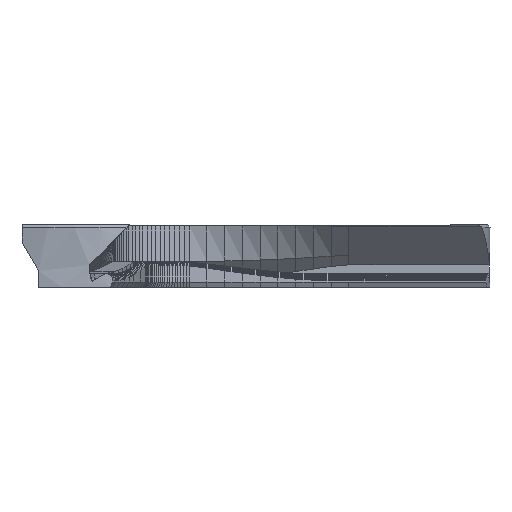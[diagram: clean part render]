
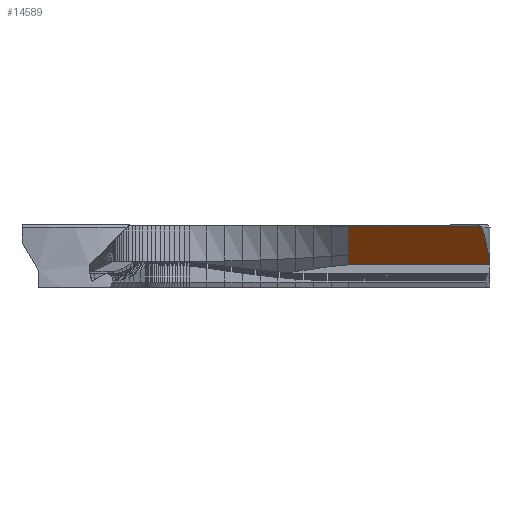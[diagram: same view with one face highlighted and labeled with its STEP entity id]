
A CAD part, left-side view. The second image highlights one B-rep face of the part: STEP entity #14589.
In plain terms, the highlighted planar face has unit normal (-0.707, 0, -0.707).
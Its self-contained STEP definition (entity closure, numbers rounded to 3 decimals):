
#3054 = PLANE('',#3055);
#3055 = AXIS2_PLACEMENT_3D('',#3056,#3057,#3058);
#3056 = CARTESIAN_POINT('',(172.995,110.7,13.005));
#3057 = DIRECTION('',(-0.777,0.,-0.63));
#3058 = DIRECTION('',(-0.63,0.,0.777));
#6466 = CYLINDRICAL_SURFACE('',#6467,34.85);
#6467 = AXIS2_PLACEMENT_3D('',#6468,#6469,#6470);
#6468 = CARTESIAN_POINT('',(183.85,115.55,-1.75));
#6469 = DIRECTION('',(0.,0.,1.));
#6470 = DIRECTION('',(1.,0.,-0.));
#6601 = CONICAL_SURFACE('',#6602,34.85,0.785);
#6602 = AXIS2_PLACEMENT_3D('',#6603,#6604,#6605);
#6603 = CARTESIAN_POINT('',(183.85,115.55,12.9));
#6604 = DIRECTION('',(-0.,-0.,-1.));
#6605 = DIRECTION('',(1.,0.,-0.));
#6710 = EDGE_CURVE('',#6711,#6713,#6715,.T.);
#6711 = VERTEX_POINT('',#6712);
#6712 = CARTESIAN_POINT('',(172.995,82.544,
    13.005));
#6713 = VERTEX_POINT('',#6714);
#6714 = CARTESIAN_POINT('',(172.995,110.4,13.005));
#6715 = SURFACE_CURVE('',#6716,(#6719,#6725),.PCURVE_S1.);
#6716 = B_SPLINE_CURVE_WITH_KNOTS('',1,(#6717,#6718),.UNSPECIFIED.,.F.,
  .F.,(2,2),(0.,1.),.PIECEWISE_BEZIER_KNOTS.);
#6717 = CARTESIAN_POINT('',(172.995,-110.7,13.005));
#6718 = CARTESIAN_POINT('',(172.995,110.7,13.005));
#6719 = PCURVE('',#3054,#6720);
#6720 = DEFINITIONAL_REPRESENTATION('',(#6721),#6724);
#6721 = B_SPLINE_CURVE_WITH_KNOTS('',1,(#6722,#6723),.UNSPECIFIED.,.F.,
  .F.,(2,2),(0.,1.),.PIECEWISE_BEZIER_KNOTS.);
#6722 = CARTESIAN_POINT('',(0.,-221.4));
#6723 = CARTESIAN_POINT('',(0.,0.));
#6724 = ( GEOMETRIC_REPRESENTATION_CONTEXT(2) 
PARAMETRIC_REPRESENTATION_CONTEXT() REPRESENTATION_CONTEXT('2D SPACE',''
  ) );
#6725 = PCURVE('',#6726,#6731);
#6726 = PLANE('',#6727);
#6727 = AXIS2_PLACEMENT_3D('',#6728,#6729,#6730);
#6728 = CARTESIAN_POINT('',(182.,110.7,4.));
#6729 = DIRECTION('',(-0.707,0.,-0.707));
#6730 = DIRECTION('',(-0.707,0.,0.707));
#6731 = DEFINITIONAL_REPRESENTATION('',(#6732),#6735);
#6732 = B_SPLINE_CURVE_WITH_KNOTS('',1,(#6733,#6734),.UNSPECIFIED.,.F.,
  .F.,(2,2),(0.,1.),.PIECEWISE_BEZIER_KNOTS.);
#6733 = CARTESIAN_POINT('',(12.735,-221.4));
#6734 = CARTESIAN_POINT('',(12.735,0.));
#6735 = ( GEOMETRIC_REPRESENTATION_CONTEXT(2) 
PARAMETRIC_REPRESENTATION_CONTEXT() REPRESENTATION_CONTEXT('2D SPACE',''
  ) );
#6824 = B_SPLINE_SURFACE_WITH_KNOTS('',1,1,(
    (#6825,#6826)
    ,(#6827,#6828
    )),.UNSPECIFIED.,.F.,.F.,.F.,(2,2),(2,2),(0.,8.5),(0.,1.),
  .PIECEWISE_BEZIER_KNOTS.);
#6825 = CARTESIAN_POINT('',(179.005,110.4,6.995));
#6826 = CARTESIAN_POINT('',(178.844,114.133,
    6.842));
#6827 = CARTESIAN_POINT('',(172.995,110.4,13.005));
#6828 = CARTESIAN_POINT('',(173.156,114.133,
    13.158));
#11368 = VERTEX_POINT('',#11369);
#11369 = CARTESIAN_POINT('',(173.1,82.399,12.9));
#11391 = EDGE_CURVE('',#11392,#11368,#11394,.T.);
#11392 = VERTEX_POINT('',#11393);
#11393 = CARTESIAN_POINT('',(181.,80.817,5.));
#11394 = SURFACE_CURVE('',#11395,(#11400,#11410),.PCURVE_S1.);
#11395 = ELLIPSE('',#11396,49.285,34.85);
#11396 = AXIS2_PLACEMENT_3D('',#11397,#11398,#11399);
#11397 = CARTESIAN_POINT('',(183.85,115.55,2.15));
#11398 = DIRECTION('',(-0.707,0.,-0.707));
#11399 = DIRECTION('',(-0.707,0.,0.707));
#11400 = PCURVE('',#6466,#11401);
#11401 = DEFINITIONAL_REPRESENTATION('',(#11402),#11409);
#11402 = B_SPLINE_CURVE_WITH_KNOTS('',5,(#11403,#11404,#11405,#11406,
    #11407,#11408),.UNSPECIFIED.,.F.,.F.,(6,6),(4.74,
    5.026),.PIECEWISE_BEZIER_KNOTS.);
#11403 = CARTESIAN_POINT('',(4.685,4.849));
#11404 = CARTESIAN_POINT('',(4.628,6.844));
#11405 = CARTESIAN_POINT('',(4.571,8.836));
#11406 = CARTESIAN_POINT('',(4.513,10.809));
#11407 = CARTESIAN_POINT('',(4.456,12.752));
#11408 = CARTESIAN_POINT('',(4.399,14.65));
#11409 = ( GEOMETRIC_REPRESENTATION_CONTEXT(2) 
PARAMETRIC_REPRESENTATION_CONTEXT() REPRESENTATION_CONTEXT('2D SPACE',''
  ) );
#11410 = PCURVE('',#6726,#11411);
#11411 = DEFINITIONAL_REPRESENTATION('',(#11412),#11416);
#11412 = ELLIPSE('',#11413,49.285,34.85);
#11413 = AXIS2_PLACEMENT_2D('',#11414,#11415);
#11414 = CARTESIAN_POINT('',(-2.616,4.85));
#11415 = DIRECTION('',(1.,0.));
#11416 = ( GEOMETRIC_REPRESENTATION_CONTEXT(2) 
PARAMETRIC_REPRESENTATION_CONTEXT() REPRESENTATION_CONTEXT('2D SPACE',''
  ) );
#11433 = PLANE('',#11434);
#11434 = AXIS2_PLACEMENT_3D('',#11435,#11436,#11437);
#11435 = CARTESIAN_POINT('',(181.,114.133,3.));
#11436 = DIRECTION('',(-1.,0.,0.));
#11437 = DIRECTION('',(0.,0.,1.));
#14556 = EDGE_CURVE('',#6711,#11368,#14557,.T.);
#14557 = SURFACE_CURVE('',#14558,(#14563,#14573),.PCURVE_S1.);
#14558 = PARABOLA('',#14559,16.122);
#14559 = AXIS2_PLACEMENT_3D('',#14560,#14561,#14562);
#14560 = CARTESIAN_POINT('',(161.05,115.55,24.95));
#14561 = DIRECTION('',(-0.707,0.,-0.707));
#14562 = DIRECTION('',(0.707,0.,-0.707));
#14563 = PCURVE('',#6601,#14564);
#14564 = DEFINITIONAL_REPRESENTATION('',(#14565),#14572);
#14565 = B_SPLINE_CURVE_WITH_KNOTS('',5,(#14566,#14567,#14568,#14569,
    #14570,#14571),.UNSPECIFIED.,.F.,.F.,(6,6),(32.315,
    33.151),.PIECEWISE_BEZIER_KNOTS.);
#14566 = CARTESIAN_POINT('',(-4.375,-0.6));
#14567 = CARTESIAN_POINT('',(-4.379,-0.482));
#14568 = CARTESIAN_POINT('',(-4.384,-0.362));
#14569 = CARTESIAN_POINT('',(-4.389,-0.242));
#14570 = CARTESIAN_POINT('',(-4.394,-0.122));
#14571 = CARTESIAN_POINT('',(-4.399,0.));
#14572 = ( GEOMETRIC_REPRESENTATION_CONTEXT(2) 
PARAMETRIC_REPRESENTATION_CONTEXT() REPRESENTATION_CONTEXT('2D SPACE',''
  ) );
#14573 = PCURVE('',#6726,#14574);
#14574 = DEFINITIONAL_REPRESENTATION('',(#14575),#14579);
#14575 = B_SPLINE_CURVE_WITH_KNOTS('',2,(#14576,#14577,#14578),
  .UNSPECIFIED.,.F.,.F.,(3,3),(32.315,33.151),
  .PIECEWISE_BEZIER_KNOTS.);
#14576 = CARTESIAN_POINT('',(13.435,-27.465));
#14577 = CARTESIAN_POINT('',(13.016,-27.883));
#14578 = CARTESIAN_POINT('',(12.587,-28.301));
#14579 = ( GEOMETRIC_REPRESENTATION_CONTEXT(2) 
PARAMETRIC_REPRESENTATION_CONTEXT() REPRESENTATION_CONTEXT('2D SPACE',''
  ) );
#14589 = ADVANCED_FACE('',(#14590),#6726,.T.);
#14590 = FACE_BOUND('',#14591,.T.);
#14591 = EDGE_LOOP('',(#14592,#14613,#14614,#14615,#14616,#14639));
#14592 = ORIENTED_EDGE('',*,*,#14593,.T.);
#14593 = EDGE_CURVE('',#14594,#11392,#14596,.T.);
#14594 = VERTEX_POINT('',#14595);
#14595 = CARTESIAN_POINT('',(181.,110.4,5.));
#14596 = SURFACE_CURVE('',#14597,(#14601,#14607),.PCURVE_S1.);
#14597 = LINE('',#14598,#14599);
#14598 = CARTESIAN_POINT('',(181.,112.417,5.));
#14599 = VECTOR('',#14600,1.);
#14600 = DIRECTION('',(-0.,-1.,0.));
#14601 = PCURVE('',#6726,#14602);
#14602 = DEFINITIONAL_REPRESENTATION('',(#14603),#14606);
#14603 = B_SPLINE_CURVE_WITH_KNOTS('',1,(#14604,#14605),.UNSPECIFIED.,
  .F.,.F.,(2,2),(2.017,33.417),
  .PIECEWISE_BEZIER_KNOTS.);
#14604 = CARTESIAN_POINT('',(1.414,-0.3));
#14605 = CARTESIAN_POINT('',(1.414,-31.7));
#14606 = ( GEOMETRIC_REPRESENTATION_CONTEXT(2) 
PARAMETRIC_REPRESENTATION_CONTEXT() REPRESENTATION_CONTEXT('2D SPACE',''
  ) );
#14607 = PCURVE('',#11433,#14608);
#14608 = DEFINITIONAL_REPRESENTATION('',(#14609),#14612);
#14609 = B_SPLINE_CURVE_WITH_KNOTS('',1,(#14610,#14611),.UNSPECIFIED.,
  .F.,.F.,(2,2),(2.017,33.417),
  .PIECEWISE_BEZIER_KNOTS.);
#14610 = CARTESIAN_POINT('',(2.,-3.733));
#14611 = CARTESIAN_POINT('',(2.,-35.133));
#14612 = ( GEOMETRIC_REPRESENTATION_CONTEXT(2) 
PARAMETRIC_REPRESENTATION_CONTEXT() REPRESENTATION_CONTEXT('2D SPACE',''
  ) );
#14613 = ORIENTED_EDGE('',*,*,#11391,.T.);
#14614 = ORIENTED_EDGE('',*,*,#14556,.F.);
#14615 = ORIENTED_EDGE('',*,*,#6710,.T.);
#14616 = ORIENTED_EDGE('',*,*,#14617,.F.);
#14617 = EDGE_CURVE('',#14618,#6713,#14620,.T.);
#14618 = VERTEX_POINT('',#14619);
#14619 = CARTESIAN_POINT('',(179.005,110.4,6.995));
#14620 = SURFACE_CURVE('',#14621,(#14625,#14632),.PCURVE_S1.);
#14621 = LINE('',#14622,#14623);
#14622 = CARTESIAN_POINT('',(179.005,110.4,6.995));
#14623 = VECTOR('',#14624,1.);
#14624 = DIRECTION('',(-0.707,0.,0.707));
#14625 = PCURVE('',#6726,#14626);
#14626 = DEFINITIONAL_REPRESENTATION('',(#14627),#14631);
#14627 = LINE('',#14628,#14629);
#14628 = CARTESIAN_POINT('',(4.235,-0.3));
#14629 = VECTOR('',#14630,1.);
#14630 = DIRECTION('',(1.,0.));
#14631 = ( GEOMETRIC_REPRESENTATION_CONTEXT(2) 
PARAMETRIC_REPRESENTATION_CONTEXT() REPRESENTATION_CONTEXT('2D SPACE',''
  ) );
#14632 = PCURVE('',#6824,#14633);
#14633 = DEFINITIONAL_REPRESENTATION('',(#14634),#14638);
#14634 = LINE('',#14635,#14636);
#14635 = CARTESIAN_POINT('',(0.,0.));
#14636 = VECTOR('',#14637,1.);
#14637 = DIRECTION('',(1.,0.));
#14638 = ( GEOMETRIC_REPRESENTATION_CONTEXT(2) 
PARAMETRIC_REPRESENTATION_CONTEXT() REPRESENTATION_CONTEXT('2D SPACE',''
  ) );
#14639 = ORIENTED_EDGE('',*,*,#14640,.F.);
#14640 = EDGE_CURVE('',#14594,#14618,#14641,.T.);
#14641 = SURFACE_CURVE('',#14642,(#14646,#14653),.PCURVE_S1.);
#14642 = LINE('',#14643,#14644);
#14643 = CARTESIAN_POINT('',(182.,110.4,4.));
#14644 = VECTOR('',#14645,1.);
#14645 = DIRECTION('',(-0.707,0.,0.707));
#14646 = PCURVE('',#6726,#14647);
#14647 = DEFINITIONAL_REPRESENTATION('',(#14648),#14652);
#14648 = LINE('',#14649,#14650);
#14649 = CARTESIAN_POINT('',(0.,-0.3));
#14650 = VECTOR('',#14651,1.);
#14651 = DIRECTION('',(1.,0.));
#14652 = ( GEOMETRIC_REPRESENTATION_CONTEXT(2) 
PARAMETRIC_REPRESENTATION_CONTEXT() REPRESENTATION_CONTEXT('2D SPACE',''
  ) );
#14653 = PCURVE('',#14654,#14659);
#14654 = B_SPLINE_SURFACE_WITH_KNOTS('',1,1,(
    (#14655,#14656)
    ,(#14657,#14658
    )),.UNSPECIFIED.,.F.,.F.,.F.,(2,2),(2,2),(0.,4.464),(0.,1.)
  ,.PIECEWISE_BEZIER_KNOTS.);
#14655 = CARTESIAN_POINT('',(182.,110.4,4.));
#14656 = CARTESIAN_POINT('',(182.,114.133,3.685));
#14657 = CARTESIAN_POINT('',(179.005,110.4,6.995));
#14658 = CARTESIAN_POINT('',(178.844,114.133,
    6.842));
#14659 = DEFINITIONAL_REPRESENTATION('',(#14660),#14663);
#14660 = B_SPLINE_CURVE_WITH_KNOTS('',1,(#14661,#14662),.UNSPECIFIED.,
  .F.,.F.,(2,2),(0.,4.235),.PIECEWISE_BEZIER_KNOTS.);
#14661 = CARTESIAN_POINT('',(0.,0.));
#14662 = CARTESIAN_POINT('',(4.464,0.));
#14663 = ( GEOMETRIC_REPRESENTATION_CONTEXT(2) 
PARAMETRIC_REPRESENTATION_CONTEXT() REPRESENTATION_CONTEXT('2D SPACE',''
  ) );
